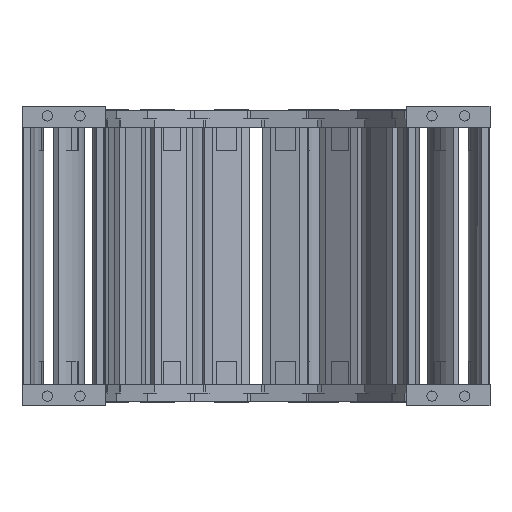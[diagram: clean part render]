
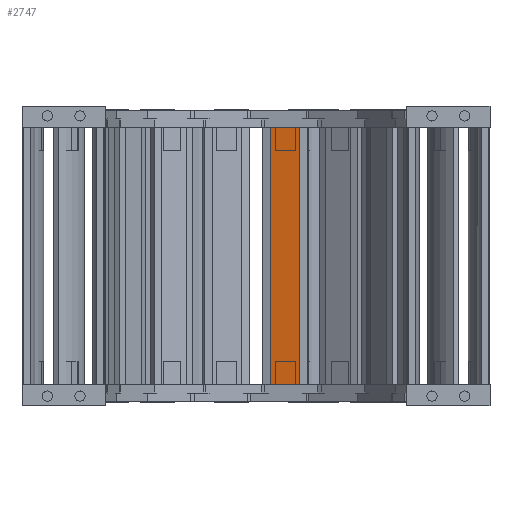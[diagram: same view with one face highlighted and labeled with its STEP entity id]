
A CAD part, left-side view. The second image highlights one B-rep face of the part: STEP entity #2747.
In plain terms, the highlighted planar face has unit normal (-0.981, 0.195, 0) as drawn and (0, -1, 0) by its records, which use the part's own axes.
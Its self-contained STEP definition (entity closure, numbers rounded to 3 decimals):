
#2634=DIRECTION('',(0.,0.,-1.));
#2635=VECTOR('',#2634,200.5);
#2636=CARTESIAN_POINT('',(-11.5,-61.,37.5));
#2637=LINE('',#2636,#2635);
#2651=DIRECTION('',(1.,0.,0.));
#2652=VECTOR('',#2651,23.);
#2653=CARTESIAN_POINT('',(-11.5,-61.,37.5));
#2654=LINE('',#2653,#2652);
#2684=DIRECTION('',(-1.,0.,0.));
#2685=VECTOR('',#2684,23.);
#2686=CARTESIAN_POINT('',(11.5,-61.,-163.));
#2687=LINE('',#2686,#2685);
#2700=DIRECTION('',(0.,0.,-1.));
#2701=VECTOR('',#2700,200.5);
#2702=CARTESIAN_POINT('',(11.5,-61.,37.5));
#2703=LINE('',#2702,#2701);
#2714=CARTESIAN_POINT('',(11.5,-61.,-163.));
#2715=VERTEX_POINT('',#2714);
#2716=CARTESIAN_POINT('',(-11.5,-61.,-163.));
#2717=VERTEX_POINT('',#2716);
#2726=CARTESIAN_POINT('',(11.5,-61.,37.5));
#2727=VERTEX_POINT('',#2726);
#2730=CARTESIAN_POINT('',(-11.5,-61.,37.5));
#2731=VERTEX_POINT('',#2730);
#2732=CARTESIAN_POINT('',(15.5,-61.,-163.));
#2733=DIRECTION('',(0.,1.,0.));
#2734=DIRECTION('',(-1.,0.,0.));
#2735=AXIS2_PLACEMENT_3D('',#2732,#2733,#2734);
#2736=PLANE('',#2735);
#2738=ORIENTED_EDGE('',*,*,#2737,.F.);
#2740=ORIENTED_EDGE('',*,*,#2739,.T.);
#2742=ORIENTED_EDGE('',*,*,#2741,.T.);
#2744=ORIENTED_EDGE('',*,*,#2743,.T.);
#2745=EDGE_LOOP('',(#2738,#2740,#2742,#2744));
#2746=FACE_OUTER_BOUND('',#2745,.F.);
#2747=ADVANCED_FACE('',(#2746),#2736,.F.);
#2737=EDGE_CURVE('',#2731,#2717,#2637,.T.);
#2739=EDGE_CURVE('',#2731,#2727,#2654,.T.);
#2741=EDGE_CURVE('',#2727,#2715,#2703,.T.);
#2743=EDGE_CURVE('',#2715,#2717,#2687,.T.);
